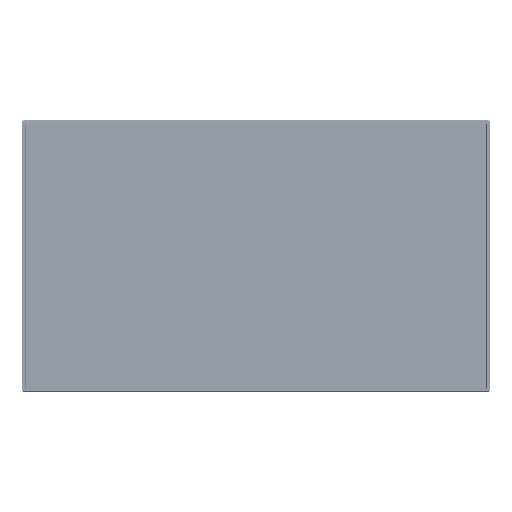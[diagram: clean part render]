
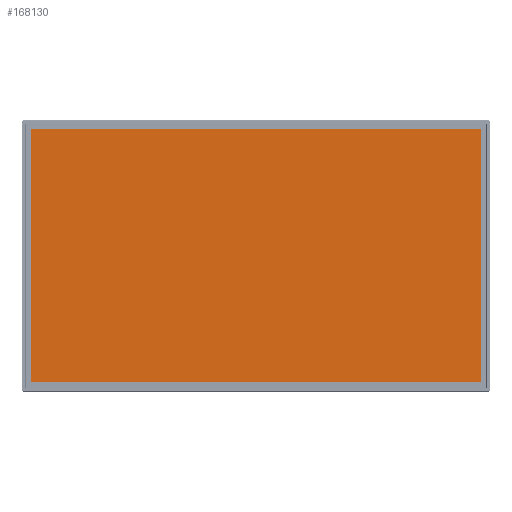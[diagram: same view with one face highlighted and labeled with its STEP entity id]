
A CAD part, top view. The second image highlights one B-rep face of the part: STEP entity #168130.
In plain terms, the highlighted planar face has unit normal (0, 0, 1).
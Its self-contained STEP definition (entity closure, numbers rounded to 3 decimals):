
#17916 = CARTESIAN_POINT ( 'NONE',  ( 1103., -621., 3. ) ) ;
#24673 = DIRECTION ( 'NONE',  ( 1., 0., 0. ) ) ;
#27219 = CARTESIAN_POINT ( 'NONE',  ( -1103., -621., 3. ) ) ;
#27331 = DIRECTION ( 'NONE',  ( 1., 0., 0. ) ) ;
#39140 = VECTOR ( 'NONE', #400979, 1000. ) ;
#76298 = LINE ( 'NONE', #442982, #432675 ) ;
#78279 = VECTOR ( 'NONE', #24673, 1000. ) ;
#113484 = VERTEX_POINT ( 'NONE', #27219 ) ;
#132193 = CARTESIAN_POINT ( 'NONE',  ( 0., 0., 3. ) ) ;
#162635 = ORIENTED_EDGE ( 'NONE', *, *, #494926, .T. ) ;
#168130 = ADVANCED_FACE ( 'NONE', ( #174349 ), #544025, .T. ) ;
#169524 = LINE ( 'NONE', #581414, #39140 ) ;
#174349 = FACE_OUTER_BOUND ( 'NONE', #553586, .T. ) ;
#191546 = ORIENTED_EDGE ( 'NONE', *, *, #338559, .T. ) ;
#202634 = DIRECTION ( 'NONE',  ( -1., 0., 0. ) ) ;
#210955 = LINE ( 'NONE', #484480, #78279 ) ;
#220442 = VERTEX_POINT ( 'NONE', #17916 ) ;
#224539 = CARTESIAN_POINT ( 'NONE',  ( 1103., 621., 3. ) ) ;
#230090 = EDGE_CURVE ( 'NONE', #499898, #113484, #169524, .T. ) ;
#232537 = DIRECTION ( 'NONE',  ( 0., 1., 0. ) ) ;
#238415 = LINE ( 'NONE', #286459, #325557 ) ;
#256775 = ORIENTED_EDGE ( 'NONE', *, *, #230090, .T. ) ;
#286459 = CARTESIAN_POINT ( 'NONE',  ( 1103., 621., 3. ) ) ;
#295063 = VERTEX_POINT ( 'NONE', #224539 ) ;
#325557 = VECTOR ( 'NONE', #232537, 1000. ) ;
#338559 = EDGE_CURVE ( 'NONE', #113484, #220442, #210955, .T. ) ;
#351809 = DIRECTION ( 'NONE',  ( 0., 0., 1. ) ) ;
#400979 = DIRECTION ( 'NONE',  ( 0., -1., 0. ) ) ;
#432675 = VECTOR ( 'NONE', #202634, 1000. ) ;
#442982 = CARTESIAN_POINT ( 'NONE',  ( -1103., 621., 3. ) ) ;
#448123 = AXIS2_PLACEMENT_3D ( 'NONE', #132193, #351809, #27331 ) ;
#484480 = CARTESIAN_POINT ( 'NONE',  ( -1103., -621., 3. ) ) ;
#494926 = EDGE_CURVE ( 'NONE', #295063, #499898, #76298, .T. ) ;
#499898 = VERTEX_POINT ( 'NONE', #523400 ) ;
#500121 = ORIENTED_EDGE ( 'NONE', *, *, #585655, .T. ) ;
#523400 = CARTESIAN_POINT ( 'NONE',  ( -1103., 621., 3. ) ) ;
#544025 = PLANE ( 'NONE',  #448123 ) ;
#553586 = EDGE_LOOP ( 'NONE', ( #162635, #256775, #191546, #500121 ) ) ;
#581414 = CARTESIAN_POINT ( 'NONE',  ( -1103., 621., 3. ) ) ;
#585655 = EDGE_CURVE ( 'NONE', #220442, #295063, #238415, .T. ) ;
